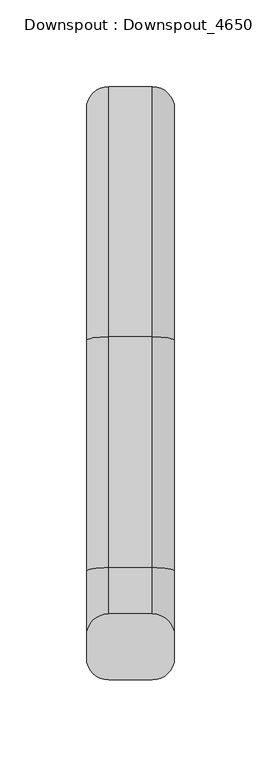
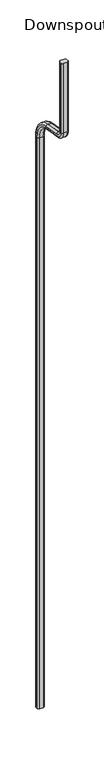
"""IFC4 building model written with IfcOpenShell, lengths in millimetres: proxy geometry, Downspout : Downspout_4650."""

import ifcopenshell
import ifcopenshell.guid

model = None  # the IFC model being written
_history = None  # IfcOwnerHistory: only IFC2X3 demands one
_inside = {}  # id of a spatial element -> (the spatial element, [elements in it])
_under = {}  # id of a project, library or spatial element -> (it, [spatial elements below it])
_declared = {}  # id of a project -> (the project, [libraries it declares])
_typed = {}  # id of a type object -> (the type object, [elements of that type])
_made_of = {}  # id of a material, layer set ... -> (it, [elements and type objects made of it])


def new_model(schema):
    """Start an empty IFC model of exactly this schema.

    Asked for "IFC4X3", IfcOpenShell would pick the latest addendum, in which some entities
    have other attributes; the version numbers below select the first issue.
    IFC2X3 requires an IfcOwnerHistory on every rooted entity: one is made here for all.
    """
    global model, _history
    if schema == "IFC4X3":
        model = ifcopenshell.file(schema_version=(4, 3, 0, 0))
    else:
        model = ifcopenshell.file(schema=schema)
    _inside.clear()
    _under.clear()
    _declared.clear()
    _typed.clear()
    _made_of.clear()
    _history = None
    if model.schema == "IFC2X3":
        org = make("IfcOrganization", Name="unknown")
        user = make(
            "IfcPersonAndOrganization",
            ThePerson=make("IfcPerson", FamilyName="unknown"),
            TheOrganization=org,
        )
        app = make(
            "IfcApplication",
            ApplicationDeveloper=org,
            Version="unknown",
            ApplicationFullName="unknown",
            ApplicationIdentifier="unknown",
        )
        _history = make(
            "IfcOwnerHistory",
            OwningUser=user,
            OwningApplication=app,
            ChangeAction="ADDED",
            CreationDate=0,
        )
    return model


def make(cls, **values):
    """One entity of the class cls with the attributes given. An attribute that is None is left unset."""
    return model.create_entity(
        cls, **{name: value for name, value in values.items() if value is not None}
    )


def rooted(cls, **values):
    """An entity with a GlobalId (a new one), such as an element, a storey or a relation."""
    return make(cls, GlobalId=ifcopenshell.guid.new(), OwnerHistory=_history, **values)


def si_unit(unit_type, name, prefix=None):
    """IfcSIUnit, for example si_unit("LENGTHUNIT", "METRE", prefix="MILLI")."""
    return make("IfcSIUnit", UnitType=unit_type, Prefix=prefix, Name=name)


def assignment(units):
    """IfcUnitAssignment: the units of a project."""
    return None if units is None else make("IfcUnitAssignment", Units=units)


def point(xyz):
    """IfcCartesianPoint."""
    return None if xyz is None else make("IfcCartesianPoint", Coordinates=xyz)


def direction(xyz):
    """IfcDirection."""
    return None if xyz is None else make("IfcDirection", DirectionRatios=xyz)


def frame(location, z_axis=None, x_axis=None):
    """IfcAxis2Placement3D, a coordinate frame: its origin and axes. An axis left out is left unset."""
    return make(
        "IfcAxis2Placement3D",
        Location=point(location),
        Axis=direction(z_axis),
        RefDirection=direction(x_axis),
    )


def origin():
    """The frame at (0, 0, 0) with its axes left unset."""
    return frame((0.0, 0.0, 0.0))


def place(relative_to, where):
    """IfcLocalPlacement: puts the frame where relative to a parent placement (None: the world)."""
    return make(
        "IfcLocalPlacement", PlacementRelTo=relative_to, RelativePlacement=where
    )


def context(
    kind, dimensions, precision=None, world=None, true_north=None, identifier=None
):
    """IfcGeometricRepresentationContext, for example the 3D "Model" context."""
    return make(
        "IfcGeometricRepresentationContext",
        ContextIdentifier=identifier,
        ContextType=kind,
        CoordinateSpaceDimension=dimensions,
        Precision=precision,
        WorldCoordinateSystem=world,
        TrueNorth=true_north,
    )


def project(units=None, contexts=None):
    """IfcProject with its units and contexts."""
    return rooted(
        "IfcProject",
        Name="project",
        RepresentationContexts=contexts,
        UnitsInContext=assignment(units),
    )


def spatial(cls, under=None, at=None, **own):
    """A site, building, storey or space (cls), placed at a placement, below another one or the project."""
    s = rooted(cls, ObjectPlacement=at, **own)
    if under is not None:
        _under.setdefault(under.id(), (under, []))[1].append(s)
    return s


def polyline(points):
    """IfcPolyline through the points."""
    return make("IfcPolyline", Points=[point(p) for p in points])


def circle_curve(where, radius):
    """IfcCircle in the frame where."""
    return make("IfcCircle", Position=where, Radius=radius)


def ellipse_curve(where, semi_axis1, semi_axis2):
    """IfcEllipse in the frame where."""
    return make(
        "IfcEllipse", Position=where, SemiAxis1=semi_axis1, SemiAxis2=semi_axis2
    )


def trimmed(basis, trim1, trim2, sense, master):
    """IfcTrimmedCurve: the piece of a basis curve between two trims."""
    return make(
        "IfcTrimmedCurve",
        BasisCurve=basis,
        Trim1=trim1,
        Trim2=trim2,
        SenseAgreement=sense,
        MasterRepresentation=master,
    )


def shape(context_of_items, identifier, shape_type, items):
    """IfcShapeRepresentation: the items that make up one representation, for example the "Body"."""
    return make(
        "IfcShapeRepresentation",
        ContextOfItems=context_of_items,
        RepresentationIdentifier=identifier,
        RepresentationType=shape_type,
        Items=items,
    )


def source(mapping_origin, context_of_items, identifier, shape_type, items):
    """IfcRepresentationMap: a shape defined once, which mapped items show again and again."""
    return make(
        "IfcRepresentationMap",
        MappingOrigin=mapping_origin,
        MappedRepresentation=shape(context_of_items, identifier, shape_type, items),
    )


def transform(
    local_origin,
    x_axis=None,
    y_axis=None,
    z_axis=None,
    scale=None,
    scale2=None,
    scale3=None,
    uniform=True,
):
    """IfcCartesianTransformationOperator3D, or its non-uniform kind. x_axis, y_axis, z_axis: its Axis1, 2, 3."""
    if uniform:
        return make(
            "IfcCartesianTransformationOperator3D",
            Axis1=direction(x_axis),
            Axis2=direction(y_axis),
            LocalOrigin=point(local_origin),
            Scale=scale,
            Axis3=direction(z_axis),
        )
    return make(
        "IfcCartesianTransformationOperator3DnonUniform",
        Axis1=direction(x_axis),
        Axis2=direction(y_axis),
        LocalOrigin=point(local_origin),
        Scale=scale,
        Axis3=direction(z_axis),
        Scale2=scale2,
        Scale3=scale3,
    )


def mapped(mapping_source, mapping_target):
    """IfcMappedItem: shows the shape of a source again, moved by a transform."""
    return make(
        "IfcMappedItem", MappingSource=mapping_source, MappingTarget=mapping_target
    )


def made_of(thing, what):
    """Note that an element or type object is made of a material, layer set ...; save() writes the relation."""
    if what is not None:
        _made_of.setdefault(what.id(), (what, []))[1].append(thing)
    return thing


def element(
    cls,
    number,
    at=None,
    inside=None,
    cuts=None,
    type_object=None,
    material=None,
    context=None,
    identifier="Body",
    shape_type=None,
    held_by="IfcProductDefinitionShape",
    body=None,
    shapes=None,
    **own,
):
    """One element of the class cls, such as IfcWall. Its Tag is "e" and its number.

    at: its placement. inside: the storey or other place that contains it. cuts: it is an
    opening in that element (IfcRelVoidsElement). A single representation is given by context,
    identifier, shape_type and body (its items); several are given by shapes. held_by: the class
    of the entity that holds the representations. save() writes the other relations.
    """
    e = rooted(cls, Tag="e%d" % number, ObjectPlacement=at, **own)
    if body is not None:
        shapes = [shape(context, identifier, shape_type, body)]
    if shapes is not None:
        e.Representation = make(held_by, Representations=shapes)
    if inside is not None:
        _inside.setdefault(inside.id(), (inside, []))[1].append(e)
    if cuts is not None:
        rooted(
            "IfcRelVoidsElement", RelatingBuildingElement=cuts, RelatedOpeningElement=e
        )
    if type_object is not None:
        _typed.setdefault(type_object.id(), (type_object, []))[1].append(e)
    return made_of(e, material)


def aggregate(whole, parts):
    """IfcRelAggregates: a whole, such as a stair, and the parts it consists of."""
    return rooted("IfcRelAggregates", RelatingObject=whole, RelatedObjects=parts)


def save(model, path):
    """Write the relations noted so far, then the file.

    IfcRelAggregates (storeys below a building ...), IfcRelContainedInSpatialStructure (elements
    in a storey), IfcRelDefinesByType, IfcRelAssociatesMaterial and IfcRelDeclares: one each for
    every whole, place, type object, material and project.
    """
    for whole, parts in _under.values():
        aggregate(whole, parts)
    for where, things in _inside.values():
        rooted(
            "IfcRelContainedInSpatialStructure",
            RelatedElements=things,
            RelatingStructure=where,
        )
    for kind, things in _typed.values():
        rooted("IfcRelDefinesByType", RelatedObjects=things, RelatingType=kind)
    for what, things in _made_of.values():
        rooted("IfcRelAssociatesMaterial", RelatedObjects=things, RelatingMaterial=what)
    for by, libraries in _declared.values():
        rooted("IfcRelDeclares", RelatingContext=by, RelatedDefinitions=libraries)
    model.write(path)


def plane_surface(at):
    """IfcPlane: the flat surface through the origin of the frame at, square to its z axis."""
    return make("IfcPlane", Position=at)


def cylinder_surface(at, radius):
    """IfcCylindricalSurface: all points at the distance radius from the z axis of the frame at."""
    return make("IfcCylindricalSurface", Position=at, Radius=radius)


def revolved_surface(curve, axis_point, axis_direction):
    """IfcSurfaceOfRevolution: the curve turned about the line through axis_point along axis_direction."""
    return make(
        "IfcSurfaceOfRevolution",
        SweptCurve=make("IfcArbitraryOpenProfileDef", ProfileType="CURVE", Curve=curve),
        AxisPosition=make("IfcAxis1Placement", Location=point(axis_point), Axis=direction(axis_direction)),
    )


def advanced_brep(points, edges, surfaces, faces):
    """IfcAdvancedBrep: a solid bounded by faces that lie on surfaces and meet in shared edges.

    An edge is (start, end): straight between two places in points (the first is 0);
    or (start, end, curve); or (start, end, curve, False) where it runs against its curve.
    A face is (place in surfaces, loops), or (place, loops, False) where it looks against
    its surface's normal. A loop lists edges by number (the first is 1), with a minus sign
    where the edge is run from its end to its start. The first loop is the outer one.
    """
    corners = [point(p) for p in points]
    vertices = [make("IfcVertexPoint", VertexGeometry=c) for c in corners]
    made = []
    for start, end, *more in edges:
        made.append(
            make(
                "IfcEdgeCurve",
                EdgeStart=vertices[start],
                EdgeEnd=vertices[end],
                EdgeGeometry=more[0] if more else make("IfcPolyline", Points=[corners[start], corners[end]]),
                SameSense=more[1] if len(more) > 1 else True,
            )
        )
    hull = []
    for where, loops, *sense in faces:
        bounds = []
        for j, loop in enumerate(loops):
            ring = [make("IfcOrientedEdge", EdgeElement=made[abs(k) - 1], Orientation=k > 0) for k in loop]
            bounds.append(
                make(
                    "IfcFaceOuterBound" if j == 0 else "IfcFaceBound",
                    Bound=make("IfcEdgeLoop", EdgeList=ring),
                    Orientation=True,
                )
            )
        hull.append(make("IfcAdvancedFace", Bounds=bounds, FaceSurface=surfaces[where], SameSense=sense[0] if sense else True))
    return make("IfcAdvancedBrep", Outer=make("IfcClosedShell", CfsFaces=hull))


def downspout_downspout_4650_12743e26(model_context):
    return source(origin(), model_context, "Body", "AdvancedBrep", [
        advanced_brep(
        [(-12.7, -323.85, 5181.6), (12.7, -323.85, 5181.6), (25.4, -311.15, 5181.6), (25.4, -298.45, 5181.6), (12.7, -285.75, 5181.6), (-12.7, -285.75, 5181.6), (-25.4, -298.45, 5181.6), (-25.4, -311.15, 5181.6), (-12.7, -323.85, 4643.3010696), (12.7, -323.85, 4643.3010696), (25.4, -311.15, 4643.3010696), (25.4, -262.9402297, 4586.8546809), (25.4, -129.5527464, 4565.728179), (25.4, -6.35, 4421.4762969), (25.4, -6.35, 0.0), (25.4, 6.35, 0.0), (25.4, 6.35, 4421.4762969), (25.4, -127.5660287, 4578.271821), (25.4, -260.953512, 4599.3983229), (25.4, -298.45, 4643.3010696), (12.7, -285.75, 4643.3010696), (-12.7, -285.75, 4643.3010696), (-25.4, -298.45, 4643.3010696), (-25.4, -260.953512, 4599.3983229), (-25.4, -127.5660287, 4578.271821), (-25.4, 6.35, 4421.4762969), (-25.4, 6.35, 0.0), (-25.4, -6.35, 0.0), (-25.4, -6.35, 4421.4762969), (-25.4, -129.5527464, 4565.728179), (-25.4, -262.9402297, 4586.8546809), (-25.4, -311.15, 4643.3010696), (12.7, -264.9269474, 4574.311039), (-12.7, -264.9269474, 4574.311039), (12.7, -258.9667943, 4611.9419648), (-12.7, -258.9667943, 4611.9419648), (-12.7, -131.5394641, 4553.1845371), (12.7, -131.5394641, 4553.1845371), (12.7, -125.579311, 4590.8154629), (-12.7, -125.579311, 4590.8154629), (12.7, -19.05, 4421.4762969), (-12.7, -19.05, 4421.4762969), (12.7, 19.05, 4421.4762969), (-12.7, 19.05, 4421.4762969), (-12.7, -19.05, 0.0), (-12.7, 19.05, 0.0), (12.7, 19.05, 0.0), (12.7, -19.05, 0.0)],
        [
            (0, 1),
            (1, 2, circle_curve(frame((12.7, -311.15, 5181.6), z_axis=(0.0, 0.0, 1.0), x_axis=(1.0, 0.0, 0.0)), 12.7)),
            (2, 3),
            (3, 4, circle_curve(frame((12.7, -298.45, 5181.6), z_axis=(0.0, 0.0, 1.0), x_axis=(1.0, 0.0, 0.0)), 12.7)),
            (4, 5),
            (5, 6, circle_curve(frame((-12.7, -298.45, 5181.6), z_axis=(0.0, 0.0, 1.0), x_axis=(1.0, 0.0, 0.0)), 12.7)),
            (6, 7),
            (7, 0, circle_curve(frame((-12.7, -311.15, 5181.6), z_axis=(0.0, 0.0, 1.0), x_axis=(1.0, 0.0, 0.0)), 12.7)),
            (0, 8),
            (8, 9),
            (9, 1),
            (9, 10, circle_curve(frame((12.7, -311.15, 4643.3010696), z_axis=(0.0, 0.0, 1.0), x_axis=(1.0, 0.0, 0.0)), 12.7)),
            (10, 2),
            (10, 11, circle_curve(frame((25.4, -254.0, 4643.3010696), z_axis=(1.0, 0.0, 0.0), x_axis=(0.0, -1.0, 0.0)), 57.15)),
            (11, 12),
            (12, 13, circle_curve(frame((25.4, -152.4, 4421.4762969), z_axis=(-1.0, 0.0, 0.0), x_axis=(0.0, 0.15643446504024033, 0.9876883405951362)), 146.05)),
            (13, 14),
            (14, 15),
            (15, 16),
            (16, 17, circle_curve(frame((25.4, -152.4, 4421.4762969), z_axis=(1.0, 0.0, 0.0), x_axis=(0.0, 0.15643446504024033, 0.9876883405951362)), 158.75)),
            (17, 18),
            (18, 19, circle_curve(frame((25.4, -254.0, 4643.3010696), z_axis=(-1.0, 0.0, 0.0), x_axis=(0.0, -1.0, 0.0)), 44.45)),
            (19, 3),
            (19, 20, circle_curve(frame((12.7, -298.45, 4643.3010696), z_axis=(0.0, 0.0, 1.0), x_axis=(1.0, 0.0, 0.0)), 12.7)),
            (20, 4),
            (20, 21),
            (21, 5),
            (21, 22, circle_curve(frame((-12.7, -298.45, 4643.3010696), z_axis=(0.0, 0.0, 1.0), x_axis=(1.0, 0.0, 0.0)), 12.7)),
            (22, 6),
            (22, 23, circle_curve(frame((-25.4, -254.0, 4643.3010696), z_axis=(1.0, 0.0, 0.0), x_axis=(0.0, -1.0, 0.0)), 44.45)),
            (23, 24),
            (24, 25, circle_curve(frame((-25.4, -152.4, 4421.4762969), z_axis=(-1.0, 0.0, 0.0), x_axis=(0.0, 0.15643446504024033, 0.9876883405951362)), 158.75)),
            (25, 26),
            (26, 27),
            (27, 28),
            (28, 29, circle_curve(frame((-25.4, -152.4, 4421.4762969), z_axis=(1.0, 0.0, 0.0), x_axis=(0.0, 0.15643446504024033, 0.9876883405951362)), 146.05)),
            (29, 30),
            (30, 31, circle_curve(frame((-25.4, -254.0, 4643.3010696), z_axis=(-1.0, 0.0, 0.0), x_axis=(0.0, -1.0, 0.0)), 57.15)),
            (31, 7),
            (31, 8, circle_curve(frame((-12.7, -311.15, 4643.3010696), z_axis=(0.0, 0.0, 1.0), x_axis=(1.0, 0.0, 0.0)), 12.7)),
            (32, 9, circle_curve(frame((12.7, -254.0, 4643.3010696), z_axis=(-1.0, 0.0, 0.0), x_axis=(0.0, -1.0, 0.0)), 69.85)),
            (8, 33, circle_curve(frame((-12.7, -254.0, 4643.3010696), z_axis=(1.0, 0.0, 0.0), x_axis=(0.0, -1.0, 0.0)), 69.85)),
            (33, 32),
            (32, 11, circle_curve(frame((12.7, -262.9402297, 4586.8546809), z_axis=(0.0, -0.9876883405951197, 0.15643446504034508), x_axis=(1.0, 0.0, 0.0)), 12.7)),
            (34, 20, circle_curve(frame((12.7, -254.0, 4643.3010696), z_axis=(-1.0, 0.0, 0.0), x_axis=(0.0, -1.0, 0.0)), 31.75)),
            (18, 34, circle_curve(frame((12.7, -260.953512, 4599.3983229), z_axis=(0.0, -0.9876883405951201, 0.15643446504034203), x_axis=(1.0, 0.0, 0.0)), 12.7)),
            (35, 21, circle_curve(frame((-12.7, -254.0, 4643.3010696), z_axis=(-1.0, 0.0, 0.0), x_axis=(0.0, -1.0, 0.0)), 31.75)),
            (34, 35),
            (35, 23, circle_curve(frame((-12.7, -260.953512, 4599.3983229), z_axis=(0.0, -0.9876883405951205, 0.15643446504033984), x_axis=(1.0, 0.0, 0.0)), 12.7)),
            (30, 33, circle_curve(frame((-12.7, -262.9402297, 4586.8546809), z_axis=(0.0, -0.9876883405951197, 0.15643446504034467), x_axis=(1.0, 0.0, 0.0)), 12.7)),
            (33, 36),
            (36, 37),
            (37, 32),
            (37, 12, circle_curve(frame((12.7, -129.5527464, 4565.728179), z_axis=(0.0, -0.9876883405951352, 0.15643446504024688), x_axis=(1.0, 0.0, 0.0)), 12.7)),
            (17, 38, circle_curve(frame((12.7, -127.5660287, 4578.271821), z_axis=(0.0, -0.9876883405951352, 0.15643446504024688), x_axis=(1.0, 0.0, 0.0)), 12.7)),
            (38, 34),
            (38, 39),
            (39, 35),
            (39, 24, circle_curve(frame((-12.7, -127.5660287, 4578.271821), z_axis=(0.0, -0.9876883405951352, 0.15643446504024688), x_axis=(1.0, 0.0, 0.0)), 12.7)),
            (29, 36, circle_curve(frame((-12.7, -129.5527464, 4565.728179), z_axis=(0.0, -0.9876883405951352, 0.15643446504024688), x_axis=(1.0, 0.0, 0.0)), 12.7)),
            (40, 37, circle_curve(frame((12.7, -152.4, 4421.4762969), z_axis=(1.0, 0.0, 0.0), x_axis=(0.0, 0.15643446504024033, 0.9876883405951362)), 133.35)),
            (36, 41, circle_curve(frame((-12.7, -152.4, 4421.4762969), z_axis=(-1.0, 0.0, 0.0), x_axis=(0.0, 0.15643446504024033, 0.9876883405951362)), 133.35)),
            (41, 40),
            (40, 13, circle_curve(frame((12.7, -6.35, 4421.4762969), z_axis=(0.0, 0.0, 1.0), x_axis=(1.0, 0.0, 0.0)), 12.7)),
            (42, 38, circle_curve(frame((12.7, -152.4, 4421.4762969), z_axis=(1.0, 0.0, 0.0), x_axis=(0.0, 0.15643446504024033, 0.9876883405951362)), 171.45)),
            (16, 42, circle_curve(frame((12.7, 6.35, 4421.4762969), z_axis=(0.0, 0.0, 1.0), x_axis=(1.0, 0.0, 0.0)), 12.7)),
            (43, 39, circle_curve(frame((-12.7, -152.4, 4421.4762969), z_axis=(1.0, 0.0, 0.0), x_axis=(0.0, 0.15643446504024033, 0.9876883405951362)), 171.45)),
            (42, 43),
            (43, 25, circle_curve(frame((-12.7, 6.35, 4421.4762969), z_axis=(0.0, 0.0, 1.0), x_axis=(1.0, 0.0, 0.0)), 12.7)),
            (28, 41, circle_curve(frame((-12.7, -6.35, 4421.4762969), z_axis=(0.0, 0.0, 1.0), x_axis=(1.0, 0.0, 0.0)), 12.7)),
            (44, 27, circle_curve(frame((-12.7, -6.35, 0.0), z_axis=(0.0, 0.0, -1.0), x_axis=(1.0, 0.0, 0.0)), 12.7)),
            (26, 45, circle_curve(frame((-12.7, 6.35, 0.0), z_axis=(0.0, 0.0, -1.0), x_axis=(1.0, 0.0, 0.0)), 12.7)),
            (45, 46),
            (46, 15, circle_curve(frame((12.7, 6.35, 0.0), z_axis=(0.0, 0.0, -1.0), x_axis=(1.0, 0.0, 0.0)), 12.7)),
            (14, 47, circle_curve(frame((12.7, -6.35, 0.0), z_axis=(0.0, 0.0, -1.0), x_axis=(1.0, 0.0, 0.0)), 12.7)),
            (47, 44),
            (41, 44),
            (47, 40),
            (46, 42),
            (45, 43),
        ],
        [
            plane_surface(frame((0.0, -304.8, 5181.6), z_axis=(0.0, 0.0, 1.0), x_axis=(1.0, 0.0, 0.0))),
            plane_surface(frame((-12.7, -323.85, 5181.6), z_axis=(0.0, -1.0, 0.0), x_axis=(0.0, 0.0, -1.0))),
            cylinder_surface(frame((12.7, -311.15, 5181.6), z_axis=(0.0, 0.0, 1.0), x_axis=(1.0, 0.0, 0.0)), 12.7),
            plane_surface(frame((25.4, -311.15, 5181.6), z_axis=(1.0, 0.0, 0.0), x_axis=(0.0, 0.0, -1.0))),
            cylinder_surface(frame((12.7, -298.45, 5181.6), z_axis=(0.0, 0.0, 1.0), x_axis=(1.0, 0.0, 0.0)), 12.7),
            plane_surface(frame((12.7, -285.75, 5181.6), z_axis=(0.0, 1.0, 0.0), x_axis=(0.0, 0.0, -1.0))),
            cylinder_surface(frame((-12.7, -298.45, 5181.6), z_axis=(0.0, 0.0, 1.0), x_axis=(1.0, 0.0, 0.0)), 12.7),
            plane_surface(frame((-25.4, -298.45, 5181.6), z_axis=(-1.0, 0.0, 0.0), x_axis=(0.0, 0.0, -1.0))),
            cylinder_surface(frame((-12.7, -311.15, 5181.6), z_axis=(0.0, 0.0, 1.0), x_axis=(1.0, 0.0, 0.0)), 12.7),
            cylinder_surface(frame((0.0, -254.0, 4643.3010696), z_axis=(1.0, 0.0, 0.0), x_axis=(0.0, -1.0, 0.0)), 69.85),
            revolved_surface(trimmed(ellipse_curve(frame((12.7, -311.15, 4643.3010696), z_axis=(0.0, 0.0, 1.0), x_axis=(1.0, 0.0, 0.0)), 12.7, 12.7), [point((12.7, -323.85, 4643.3010696))], [point((25.4, -311.15, 4643.3010696))], True, "CARTESIAN"), (0.0, -254.0, 4643.3010696), (1.0, 0.0, 0.0)),
            revolved_surface(trimmed(ellipse_curve(frame((12.7, -298.45, 4643.3010696), z_axis=(0.0, 0.0, 1.0), x_axis=(1.0, 0.0, 0.0)), 12.7, 12.7), [point((25.4, -298.45, 4643.3010696))], [point((12.7, -285.75, 4643.3010696))], True, "CARTESIAN"), (0.0, -254.0, 4643.3010696), (1.0, 0.0, 0.0)),
            revolved_surface(polyline([(12.7, -285.75, 4643.3010696), (-12.7, -285.75, 4643.3010696)]), (0.0, -254.0, 4643.3010696), (1.0, 0.0, 0.0)),
            revolved_surface(trimmed(ellipse_curve(frame((-12.7, -298.45, 4643.3010696), z_axis=(0.0, 0.0, 1.0), x_axis=(1.0, 0.0, 0.0)), 12.7, 12.7), [point((-12.7, -285.75, 4643.3010696))], [point((-25.4, -298.45, 4643.3010696))], True, "CARTESIAN"), (0.0, -254.0, 4643.3010696), (1.0, 0.0, 0.0)),
            revolved_surface(trimmed(ellipse_curve(frame((-12.7, -311.15, 4643.3010696), z_axis=(0.0, 0.0, 1.0), x_axis=(1.0, 0.0, 0.0)), 12.7, 12.7), [point((-25.4, -311.15, 4643.3010696))], [point((-12.7, -323.85, 4643.3010696))], True, "CARTESIAN"), (0.0, -254.0, 4643.3010696), (1.0, 0.0, 0.0)),
            plane_surface(frame((-12.7, -264.9269474, 4574.311039), z_axis=(0.0, -0.15643446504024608, -0.9876883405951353), x_axis=(0.0, 0.9876883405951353, -0.15643446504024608))),
            cylinder_surface(frame((12.7, -262.9402297, 4586.8546809), z_axis=(0.0, -0.9876883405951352, 0.15643446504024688), x_axis=(1.0, 0.0, 0.0)), 12.7),
            cylinder_surface(frame((12.7, -260.953512, 4599.3983229), z_axis=(0.0, -0.9876883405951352, 0.15643446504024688), x_axis=(1.0, 0.0, 0.0)), 12.7),
            plane_surface(frame((12.7, -258.9667943, 4611.9419648), z_axis=(0.0, 0.1564344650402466, 0.9876883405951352), x_axis=(0.0, 0.9876883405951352, -0.1564344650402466))),
            cylinder_surface(frame((-12.7, -260.953512, 4599.3983229), z_axis=(0.0, -0.9876883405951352, 0.15643446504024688), x_axis=(1.0, 0.0, 0.0)), 12.7),
            cylinder_surface(frame((-12.7, -262.9402297, 4586.8546809), z_axis=(0.0, -0.9876883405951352, 0.15643446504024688), x_axis=(1.0, 0.0, 0.0)), 12.7),
            revolved_surface(polyline([(-12.7, -131.53946408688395, 4553.184537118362), (12.7, -131.53946408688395, 4553.184537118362)]), (0.0, -152.4, 4421.4762969), (-1.0, 0.0, 0.0)),
            revolved_surface(trimmed(ellipse_curve(frame((12.7, -129.5527464, 4565.728179), z_axis=(0.0, -0.9876883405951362, 0.1564344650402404), x_axis=(1.0, 0.0, 0.0)), 12.7, 12.7), [point((12.7, -131.5394641, 4553.1845371))], [point((25.4, -129.5527464, 4565.728179))], True, "CARTESIAN"), (0.0, -152.4, 4421.4762969), (-1.0, 0.0, 0.0)),
            revolved_surface(trimmed(ellipse_curve(frame((12.7, -127.5660287, 4578.271821), z_axis=(0.0, -0.9876883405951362, 0.1564344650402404), x_axis=(1.0, 0.0, 0.0)), 12.7, 12.7), [point((25.4, -127.5660287, 4578.271821))], [point((12.7, -125.579311, 4590.8154629))], True, "CARTESIAN"), (0.0, -152.4, 4421.4762969), (-1.0, 0.0, 0.0)),
            cylinder_surface(frame((0.0, -152.4, 4421.4762969), z_axis=(-1.0, 0.0, 0.0), x_axis=(0.0, 0.15643446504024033, 0.9876883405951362)), 171.45),
            revolved_surface(trimmed(ellipse_curve(frame((-12.7, -127.5660287, 4578.271821), z_axis=(0.0, -0.9876883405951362, 0.1564344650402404), x_axis=(1.0, 0.0, 0.0)), 12.7, 12.7), [point((-12.7, -125.579311, 4590.8154629))], [point((-25.4, -127.5660287, 4578.271821))], True, "CARTESIAN"), (0.0, -152.4, 4421.4762969), (-1.0, 0.0, 0.0)),
            revolved_surface(trimmed(ellipse_curve(frame((-12.7, -129.5527464, 4565.728179), z_axis=(0.0, -0.9876883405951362, 0.1564344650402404), x_axis=(1.0, 0.0, 0.0)), 12.7, 12.7), [point((-25.4, -129.5527464, 4565.728179))], [point((-12.7, -131.5394641, 4553.1845371))], True, "CARTESIAN"), (0.0, -152.4, 4421.4762969), (-1.0, 0.0, 0.0)),
            plane_surface(frame((0.0, 0.0, 0.0), z_axis=(0.0, 0.0, -1.0), x_axis=(1.0, 0.0, 0.0))),
            plane_surface(frame((-12.7, -19.05, 4421.4762969), z_axis=(0.0, -1.0, 0.0), x_axis=(0.0, 0.0, -1.0))),
            cylinder_surface(frame((12.7, -6.35, 4421.4762969), z_axis=(0.0, 0.0, 1.0), x_axis=(1.0, 0.0, 0.0)), 12.7),
            cylinder_surface(frame((12.7, 6.35, 4421.4762969), z_axis=(0.0, 0.0, 1.0), x_axis=(1.0, 0.0, 0.0)), 12.7),
            plane_surface(frame((12.7, 19.05, 4421.4762969), z_axis=(0.0, 1.0, 0.0), x_axis=(0.0, 0.0, -1.0))),
            cylinder_surface(frame((-12.7, 6.35, 4421.4762969), z_axis=(0.0, 0.0, 1.0), x_axis=(1.0, 0.0, 0.0)), 12.7),
            cylinder_surface(frame((-12.7, -6.35, 4421.4762969), z_axis=(0.0, 0.0, 1.0), x_axis=(1.0, 0.0, 0.0)), 12.7),
        ],
        [
            (0, [[1, 2, 3, 4, 5, 6, 7, 8]]),
            (1, [[-1, 9, 10, 11]]),
            (2, [[-2, -11, 12, 13]]),
            (3, [[-3, -13, 14, 15, 16, 17, 18, 19, 20, 21, 22, 23]]),
            (4, [[-4, -23, 24, 25]]),
            (5, [[-5, -25, 26, 27]]),
            (6, [[-6, -27, 28, 29]]),
            (7, [[-7, -29, 30, 31, 32, 33, 34, 35, 36, 37, 38, 39]]),
            (8, [[-8, -39, 40, -9]]),
            (9, [[41, -10, 42, 43]]),
            (10, [[-14, -12, -41, 44]]),
            (11, [[45, -24, -22, 46]]),
            (12, [[47, -26, -45, 48]]),
            (13, [[-30, -28, -47, 49]]),
            (14, [[-42, -40, -38, 50]]),
            (15, [[-43, 51, 52, 53]]),
            (16, [[-44, -53, 54, -15]]),
            (17, [[-46, -21, 55, 56]]),
            (18, [[-48, -56, 57, 58]]),
            (19, [[-49, -58, 59, -31]]),
            (20, [[-50, -37, 60, -51]]),
            (21, [[61, -52, 62, 63]]),
            (22, [[-16, -54, -61, 64]]),
            (23, [[65, -55, -20, 66]]),
            (24, [[67, -57, -65, 68]]),
            (25, [[-32, -59, -67, 69]]),
            (26, [[-62, -60, -36, 70]]),
            (27, [[71, -34, 72, 73, 74, -18, 75, 76]]),
            (28, [[-63, 77, -76, 78]]),
            (29, [[-64, -78, -75, -17]]),
            (30, [[-66, -19, -74, 79]]),
            (31, [[-68, -79, -73, 80]]),
            (32, [[-69, -80, -72, -33]]),
            (33, [[-70, -35, -71, -77]]),
        ],
    ),
    ])


if __name__ == "__main__":
    model = new_model("IFC4")
    model_context = context("Model", 3, world=origin())
    ifc_project = project(units=[si_unit("LENGTHUNIT", "METRE", prefix="MILLI")], contexts=[model_context])
    site = spatial("IfcSite", under=ifc_project)
    building = spatial("IfcBuilding", under=site)
    placement = place(None, origin())
    downspout_downspout_4650_shape = downspout_downspout_4650_12743e26(model_context)
    element("IfcBuildingElementProxy", 1, Name="Downspout : Downspout_4650", ObjectType="Downspout : Downspout_4650", at=placement, inside=building, context=model_context, shape_type="MappedRepresentation", body=[
        mapped(downspout_downspout_4650_shape, transform((0.0, 0.0, 0.0), x_axis=(1.0, 0.0, 0.0), y_axis=(0.0, 1.0, 0.0), z_axis=(0.0, 0.0, 1.0))),
    ])
    save(model, "model.ifc")
